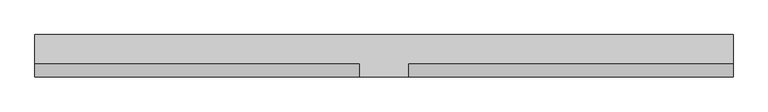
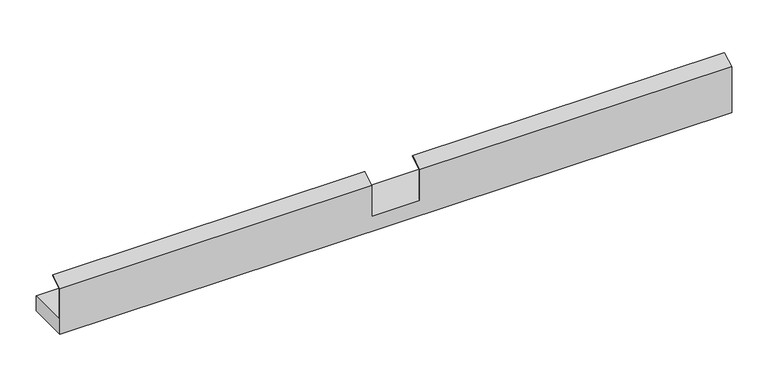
"""IFC4 building model written with IfcOpenShell, lengths in millimetres: proxy geometry, BASYS^OFFICE 7_WIRE WALL_TROUGH."""

import ifcopenshell
import ifcopenshell.guid

model = None  # the IFC model being written
_history = None  # IfcOwnerHistory: only IFC2X3 demands one
_inside = {}  # id of a spatial element -> (the spatial element, [elements in it])
_under = {}  # id of a project, library or spatial element -> (it, [spatial elements below it])
_declared = {}  # id of a project -> (the project, [libraries it declares])
_typed = {}  # id of a type object -> (the type object, [elements of that type])
_made_of = {}  # id of a material, layer set ... -> (it, [elements and type objects made of it])


def new_model(schema):
    """Start an empty IFC model of exactly this schema.

    Asked for "IFC4X3", IfcOpenShell would pick the latest addendum, in which some entities
    have other attributes; the version numbers below select the first issue.
    IFC2X3 requires an IfcOwnerHistory on every rooted entity: one is made here for all.
    """
    global model, _history
    if schema == "IFC4X3":
        model = ifcopenshell.file(schema_version=(4, 3, 0, 0))
    else:
        model = ifcopenshell.file(schema=schema)
    _inside.clear()
    _under.clear()
    _declared.clear()
    _typed.clear()
    _made_of.clear()
    _history = None
    if model.schema == "IFC2X3":
        org = make("IfcOrganization", Name="unknown")
        user = make(
            "IfcPersonAndOrganization",
            ThePerson=make("IfcPerson", FamilyName="unknown"),
            TheOrganization=org,
        )
        app = make(
            "IfcApplication",
            ApplicationDeveloper=org,
            Version="unknown",
            ApplicationFullName="unknown",
            ApplicationIdentifier="unknown",
        )
        _history = make(
            "IfcOwnerHistory",
            OwningUser=user,
            OwningApplication=app,
            ChangeAction="ADDED",
            CreationDate=0,
        )
    return model


def make(cls, **values):
    """One entity of the class cls with the attributes given. An attribute that is None is left unset."""
    return model.create_entity(
        cls, **{name: value for name, value in values.items() if value is not None}
    )


def rooted(cls, **values):
    """An entity with a GlobalId (a new one), such as an element, a storey or a relation."""
    return make(cls, GlobalId=ifcopenshell.guid.new(), OwnerHistory=_history, **values)


def si_unit(unit_type, name, prefix=None):
    """IfcSIUnit, for example si_unit("LENGTHUNIT", "METRE", prefix="MILLI")."""
    return make("IfcSIUnit", UnitType=unit_type, Prefix=prefix, Name=name)


def assignment(units):
    """IfcUnitAssignment: the units of a project."""
    return None if units is None else make("IfcUnitAssignment", Units=units)


def point(xyz):
    """IfcCartesianPoint."""
    return None if xyz is None else make("IfcCartesianPoint", Coordinates=xyz)


def direction(xyz):
    """IfcDirection."""
    return None if xyz is None else make("IfcDirection", DirectionRatios=xyz)


def frame(location, z_axis=None, x_axis=None):
    """IfcAxis2Placement3D, a coordinate frame: its origin and axes. An axis left out is left unset."""
    return make(
        "IfcAxis2Placement3D",
        Location=point(location),
        Axis=direction(z_axis),
        RefDirection=direction(x_axis),
    )


def origin():
    """The frame at (0, 0, 0) with its axes left unset."""
    return frame((0.0, 0.0, 0.0))


def place(relative_to, where):
    """IfcLocalPlacement: puts the frame where relative to a parent placement (None: the world)."""
    return make(
        "IfcLocalPlacement", PlacementRelTo=relative_to, RelativePlacement=where
    )


def context(
    kind, dimensions, precision=None, world=None, true_north=None, identifier=None
):
    """IfcGeometricRepresentationContext, for example the 3D "Model" context."""
    return make(
        "IfcGeometricRepresentationContext",
        ContextIdentifier=identifier,
        ContextType=kind,
        CoordinateSpaceDimension=dimensions,
        Precision=precision,
        WorldCoordinateSystem=world,
        TrueNorth=true_north,
    )


def project(units=None, contexts=None):
    """IfcProject with its units and contexts."""
    return rooted(
        "IfcProject",
        Name="project",
        RepresentationContexts=contexts,
        UnitsInContext=assignment(units),
    )


def spatial(cls, under=None, at=None, **own):
    """A site, building, storey or space (cls), placed at a placement, below another one or the project."""
    s = rooted(cls, ObjectPlacement=at, **own)
    if under is not None:
        _under.setdefault(under.id(), (under, []))[1].append(s)
    return s


def faces_of(points, faces, orient=None, outer=None):
    """IfcFace entities. A face is a list of loops; a loop is a list of indices into points, from 0.

    orient and outer hold one flag for each loop. By default every Orientation is true, the
    first loop of a face is its IfcFaceOuterBound and the others are IfcFaceBound.
    """
    made = []
    for i, loops in enumerate(faces):
        bounds = []
        for j, loop in enumerate(loops):
            is_outer = j == 0 if outer is None else outer[i][j]
            bounds.append(
                make(
                    "IfcFaceOuterBound" if is_outer else "IfcFaceBound",
                    Bound=make("IfcPolyLoop", Polygon=[points[k] for k in loop]),
                    Orientation=True if orient is None else orient[i][j],
                )
            )
        made.append(make("IfcFace", Bounds=bounds))
    return made


def faceted_brep(points, faces, orient=None, outer=None, voids=None):
    """IfcFacetedBrep: a solid bounded by flat faces; with voids (closed shells), ...WithVoids."""
    shared = [point(p) for p in points]
    hull = make("IfcClosedShell", CfsFaces=faces_of(shared, faces, orient, outer))
    if voids is None:
        return make("IfcFacetedBrep", Outer=hull)
    return make(
        "IfcFacetedBrepWithVoids",
        Outer=hull,
        Voids=[
            make(cls, CfsFaces=faces_of(shared, fs, o, b)) for cls, fs, o, b in voids
        ],
    )


def shape(context_of_items, identifier, shape_type, items):
    """IfcShapeRepresentation: the items that make up one representation, for example the "Body"."""
    return make(
        "IfcShapeRepresentation",
        ContextOfItems=context_of_items,
        RepresentationIdentifier=identifier,
        RepresentationType=shape_type,
        Items=items,
    )


def source(mapping_origin, context_of_items, identifier, shape_type, items):
    """IfcRepresentationMap: a shape defined once, which mapped items show again and again."""
    return make(
        "IfcRepresentationMap",
        MappingOrigin=mapping_origin,
        MappedRepresentation=shape(context_of_items, identifier, shape_type, items),
    )


def transform(
    local_origin,
    x_axis=None,
    y_axis=None,
    z_axis=None,
    scale=None,
    scale2=None,
    scale3=None,
    uniform=True,
):
    """IfcCartesianTransformationOperator3D, or its non-uniform kind. x_axis, y_axis, z_axis: its Axis1, 2, 3."""
    if uniform:
        return make(
            "IfcCartesianTransformationOperator3D",
            Axis1=direction(x_axis),
            Axis2=direction(y_axis),
            LocalOrigin=point(local_origin),
            Scale=scale,
            Axis3=direction(z_axis),
        )
    return make(
        "IfcCartesianTransformationOperator3DnonUniform",
        Axis1=direction(x_axis),
        Axis2=direction(y_axis),
        LocalOrigin=point(local_origin),
        Scale=scale,
        Axis3=direction(z_axis),
        Scale2=scale2,
        Scale3=scale3,
    )


def mapped(mapping_source, mapping_target):
    """IfcMappedItem: shows the shape of a source again, moved by a transform."""
    return make(
        "IfcMappedItem", MappingSource=mapping_source, MappingTarget=mapping_target
    )


def made_of(thing, what):
    """Note that an element or type object is made of a material, layer set ...; save() writes the relation."""
    if what is not None:
        _made_of.setdefault(what.id(), (what, []))[1].append(thing)
    return thing


def element(
    cls,
    number,
    at=None,
    inside=None,
    cuts=None,
    type_object=None,
    material=None,
    context=None,
    identifier="Body",
    shape_type=None,
    held_by="IfcProductDefinitionShape",
    body=None,
    shapes=None,
    **own,
):
    """One element of the class cls, such as IfcWall. Its Tag is "e" and its number.

    at: its placement. inside: the storey or other place that contains it. cuts: it is an
    opening in that element (IfcRelVoidsElement). A single representation is given by context,
    identifier, shape_type and body (its items); several are given by shapes. held_by: the class
    of the entity that holds the representations. save() writes the other relations.
    """
    e = rooted(cls, Tag="e%d" % number, ObjectPlacement=at, **own)
    if body is not None:
        shapes = [shape(context, identifier, shape_type, body)]
    if shapes is not None:
        e.Representation = make(held_by, Representations=shapes)
    if inside is not None:
        _inside.setdefault(inside.id(), (inside, []))[1].append(e)
    if cuts is not None:
        rooted(
            "IfcRelVoidsElement", RelatingBuildingElement=cuts, RelatedOpeningElement=e
        )
    if type_object is not None:
        _typed.setdefault(type_object.id(), (type_object, []))[1].append(e)
    return made_of(e, material)


def aggregate(whole, parts):
    """IfcRelAggregates: a whole, such as a stair, and the parts it consists of."""
    return rooted("IfcRelAggregates", RelatingObject=whole, RelatedObjects=parts)


def save(model, path):
    """Write the relations noted so far, then the file.

    IfcRelAggregates (storeys below a building ...), IfcRelContainedInSpatialStructure (elements
    in a storey), IfcRelDefinesByType, IfcRelAssociatesMaterial and IfcRelDeclares: one each for
    every whole, place, type object, material and project.
    """
    for whole, parts in _under.values():
        aggregate(whole, parts)
    for where, things in _inside.values():
        rooted(
            "IfcRelContainedInSpatialStructure",
            RelatedElements=things,
            RelatingStructure=where,
        )
    for kind, things in _typed.values():
        rooted("IfcRelDefinesByType", RelatedObjects=things, RelatingType=kind)
    for what, things in _made_of.values():
        rooted("IfcRelAssociatesMaterial", RelatedObjects=things, RelatingMaterial=what)
    for by, libraries in _declared.values():
        rooted("IfcRelDeclares", RelatingContext=by, RelatedDefinitions=libraries)
    model.write(path)


def generic_models_23b81e3b(model_context):
    return source(origin(), model_context, "Body", "Brep", [
        faceted_brep([(1066.8, 0.0, 53.1958689), (1066.8, 0.0, -23.88108), (1066.8, 65.01892, -23.88108), (1066.8, 65.01892, 1.51892), (1066.8, 1.51892, 1.51892), (1066.8, 1.51892, 52.31892), (1066.8, 20.56892, 63.3174426), (1066.8, 19.80946, 64.6328659), (0.0, 0.0, -23.88108), (0.0, 0.0, 53.1958689), (0.0, 19.80946, 64.6328659), (0.0, 20.56892, 63.3174426), (0.0, 1.51892, 52.31892), (0.0, 1.51892, 1.51892), (0.0, 65.01892, 1.51892), (0.0, 65.01892, -23.88108), (495.3, 20.56892, 63.3174426), (495.3, 1.51892, 52.31892), (495.3, 19.80946, 64.6328659), (495.3, 0.0, 53.1958689), (571.5, 0.0, 53.1958689), (571.5, 0.0, 1.51892), (495.3, 0.0, 1.51892), (495.3, 1.51892, 1.51892), (571.5, 1.51892, 1.51892), (571.5, 20.56892, 63.3174426), (571.5, 1.51892, 52.31892), (571.5, 19.80946, 64.6328659)], [[[0, 1, 2, 3, 4, 5, 6, 7]], [[8, 9, 10, 11, 12, 13, 14, 15]], [[11, 16, 17, 12]], [[16, 11, 10, 18]], [[19, 9, 8, 1, 0, 20, 21, 22]], [[12, 17, 23, 13]], [[18, 10, 9, 19]], [[13, 23, 22, 21, 24, 4, 3, 14]], [[25, 6, 5, 26]], [[20, 0, 7, 27]], [[26, 5, 4, 24]], [[8, 15, 2, 1]], [[3, 2, 15, 14]], [[19, 22, 23, 17, 16, 18]], [[21, 20, 27, 25, 26, 24]], [[27, 7, 6, 25]]]),
    ])


if __name__ == "__main__":
    model = new_model("IFC4")
    model_context = context("Model", 3, world=origin())
    ifc_project = project(units=[si_unit("LENGTHUNIT", "METRE", prefix="MILLI")], contexts=[model_context])
    site = spatial("IfcSite", under=ifc_project)
    building = spatial("IfcBuilding", under=site)
    placement = place(None, origin())
    generic_models_shape = generic_models_23b81e3b(model_context)
    element("IfcBuildingElementProxy", 1, Name="BASYS^OFFICE 7_WIRE WALL_TROUGH", ObjectType="BASYS^OFFICE 7_WIRE WALL_TROUGH", at=placement, inside=building, context=model_context, shape_type="MappedRepresentation", body=[
        mapped(generic_models_shape, transform((0.0, 0.0, 0.0), x_axis=(1.0, 0.0, 0.0), y_axis=(0.0, 1.0, 0.0), z_axis=(0.0, 0.0, 1.0))),
    ])
    save(model, "model.ifc")
